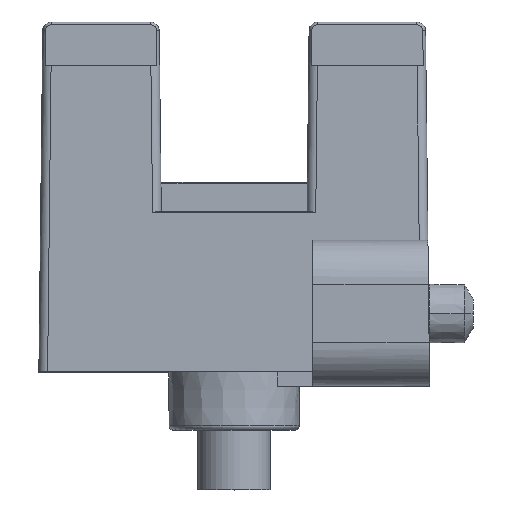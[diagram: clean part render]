
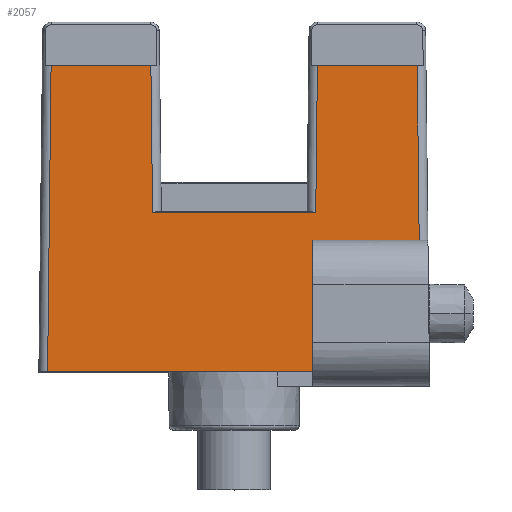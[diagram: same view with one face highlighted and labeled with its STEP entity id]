
A CAD part, top view. The second image highlights one B-rep face of the part: STEP entity #2057.
In plain terms, the highlighted planar face has unit normal (0, 0.011, 1).
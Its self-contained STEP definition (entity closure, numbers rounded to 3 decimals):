
#40=DIRECTION('',(1.,0.,0.));
#41=VECTOR('',#40,3.424);
#42=CARTESIAN_POINT('',(2.857,10.5,2.881));
#43=LINE('',#42,#41);
#44=DIRECTION('',(0.011,-1.,0.011));
#45=VECTOR('',#44,6.001);
#46=CARTESIAN_POINT('',(6.281,10.5,2.881));
#47=LINE('',#46,#45);
#48=DIRECTION('',(-1.,0.,0.));
#49=VECTOR('',#48,9.1);
#50=CARTESIAN_POINT('',(2.7,0.,3.));
#51=LINE('',#50,#49);
#52=DIRECTION('',(0.011,1.,-0.011));
#53=VECTOR('',#52,10.501);
#54=CARTESIAN_POINT('',(-6.4,0.,3.));
#55=LINE('',#54,#53);
#56=DIRECTION('',(1.,0.,0.));
#57=VECTOR('',#56,3.424);
#58=CARTESIAN_POINT('',(-6.281,10.5,2.881));
#59=LINE('',#58,#57);
#60=DIRECTION('',(0.011,-1.,0.011));
#61=VECTOR('',#60,5.05);
#62=CARTESIAN_POINT('',(-2.857,10.5,2.881));
#63=LINE('',#62,#61);
#64=DIRECTION('',(0.011,1.,-0.011));
#65=VECTOR('',#64,5.05);
#66=CARTESIAN_POINT('',(2.799,5.451,2.938));
#67=LINE('',#66,#65);
#84=DIRECTION('',(-1.,0.,0.));
#85=VECTOR('',#84,5.599);
#86=CARTESIAN_POINT('',(2.799,5.451,2.938));
#87=LINE('',#86,#85);
#306=DIRECTION('',(0.,1.,-0.011));
#307=VECTOR('',#306,4.5);
#308=CARTESIAN_POINT('',(2.7,0.,3.));
#309=LINE('',#308,#307);
#342=DIRECTION('',(1.,0.,0.));
#343=VECTOR('',#342,3.649);
#344=CARTESIAN_POINT('',(2.7,4.5,2.949));
#345=LINE('',#344,#343);
#1079=CARTESIAN_POINT('',(6.281,10.5,2.881));
#1090=CARTESIAN_POINT('',(6.349,4.5,2.949));
#1566=VERTEX_POINT('',#1079);
#1571=VERTEX_POINT('',#1090);
#1572=CARTESIAN_POINT('',(2.857,10.5,2.881));
#1573=VERTEX_POINT('',#1572);
#1574=CARTESIAN_POINT('',(2.7,4.5,2.949));
#1575=VERTEX_POINT('',#1574);
#1576=CARTESIAN_POINT('',(2.7,0.,3.));
#1577=VERTEX_POINT('',#1576);
#1578=CARTESIAN_POINT('',(-6.4,0.,3.));
#1579=VERTEX_POINT('',#1578);
#1580=CARTESIAN_POINT('',(-6.281,10.5,2.881));
#1581=VERTEX_POINT('',#1580);
#1582=CARTESIAN_POINT('',(-2.857,10.5,2.881));
#1583=VERTEX_POINT('',#1582);
#1584=CARTESIAN_POINT('',(-2.799,5.451,2.938));
#1585=VERTEX_POINT('',#1584);
#1586=CARTESIAN_POINT('',(2.799,5.451,2.938));
#1587=VERTEX_POINT('',#1586);
#2032=CARTESIAN_POINT('',(-7.961,0.,3.));
#2033=DIRECTION('',(0.,0.011,1.));
#2034=DIRECTION('',(-1.,0.,0.));
#2035=AXIS2_PLACEMENT_3D('',#2032,#2033,#2034);
#2036=PLANE('',#2035);
#2038=ORIENTED_EDGE('',*,*,#2037,.T.);
#2040=ORIENTED_EDGE('',*,*,#2039,.T.);
#2042=ORIENTED_EDGE('',*,*,#2041,.F.);
#2044=ORIENTED_EDGE('',*,*,#2043,.F.);
#2046=ORIENTED_EDGE('',*,*,#2045,.T.);
#2047=ORIENTED_EDGE('',*,*,#2006,.T.);
#2048=ORIENTED_EDGE('',*,*,#2023,.T.);
#2050=ORIENTED_EDGE('',*,*,#2049,.T.);
#2052=ORIENTED_EDGE('',*,*,#2051,.F.);
#2054=ORIENTED_EDGE('',*,*,#2053,.T.);
#2055=EDGE_LOOP('',(#2038,#2040,#2042,#2044,#2046,#2047,#2048,#2050,#2052,
#2054));
#2056=FACE_OUTER_BOUND('',#2055,.F.);
#2006=EDGE_CURVE('',#1579,#1581,#55,.T.);
#2023=EDGE_CURVE('',#1581,#1583,#59,.T.);
#2037=EDGE_CURVE('',#1573,#1566,#43,.T.);
#2039=EDGE_CURVE('',#1566,#1571,#47,.T.);
#2041=EDGE_CURVE('',#1575,#1571,#345,.T.);
#2043=EDGE_CURVE('',#1577,#1575,#309,.T.);
#2045=EDGE_CURVE('',#1577,#1579,#51,.T.);
#2049=EDGE_CURVE('',#1583,#1585,#63,.T.);
#2051=EDGE_CURVE('',#1587,#1585,#87,.T.);
#2053=EDGE_CURVE('',#1587,#1573,#67,.T.);
#2057=ADVANCED_FACE('',(#2056),#2036,.T.);
